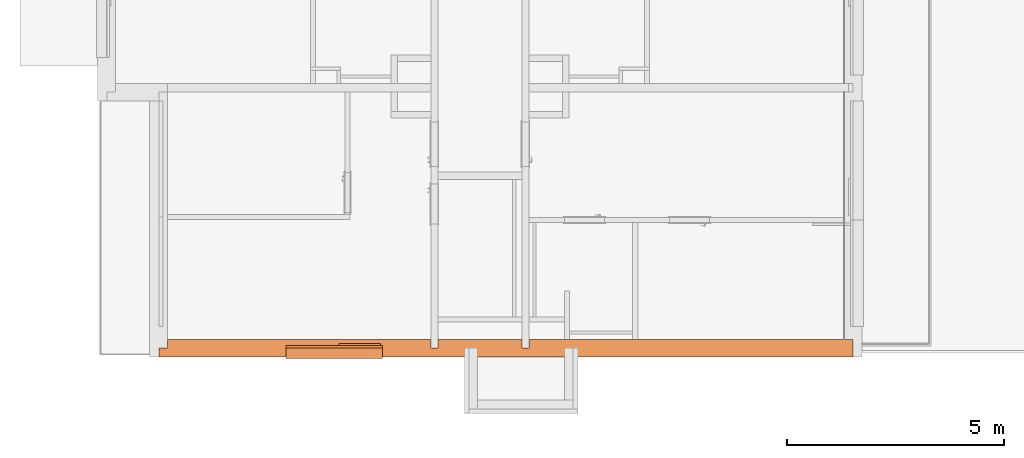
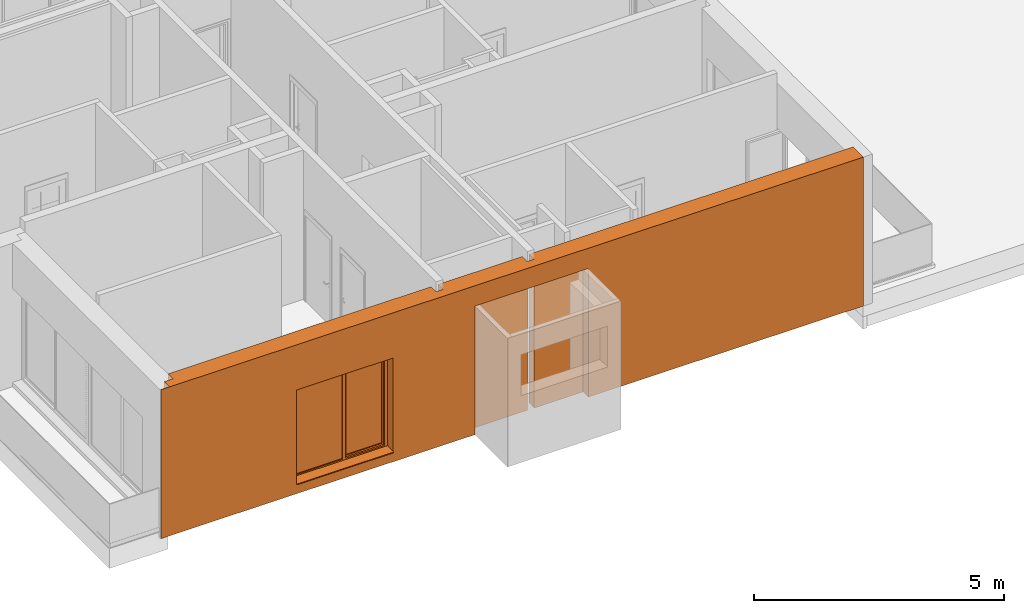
# One storey, part 24 of 46: 2 proxies, 1 opening.
"""IFC2X3 building model written with IfcOpenShell, lengths in millimetres."""

import ifcopenshell
import ifcopenshell.guid

model = None  # the IFC model being written
_history = None  # IfcOwnerHistory: only IFC2X3 demands one
_inside = {}  # id of a spatial element -> (the spatial element, [elements in it])
_under = {}  # id of a project, library or spatial element -> (it, [spatial elements below it])
_declared = {}  # id of a project -> (the project, [libraries it declares])
_typed = {}  # id of a type object -> (the type object, [elements of that type])
_made_of = {}  # id of a material, layer set ... -> (it, [elements and type objects made of it])


def new_model(schema):
    """Start an empty IFC model of exactly this schema.

    Asked for "IFC4X3", IfcOpenShell would pick the latest addendum, in which some entities
    have other attributes; the version numbers below select the first issue.
    IFC2X3 requires an IfcOwnerHistory on every rooted entity: one is made here for all.
    """
    global model, _history
    if schema == "IFC4X3":
        model = ifcopenshell.file(schema_version=(4, 3, 0, 0))
    else:
        model = ifcopenshell.file(schema=schema)
    _inside.clear()
    _under.clear()
    _declared.clear()
    _typed.clear()
    _made_of.clear()
    _history = None
    if model.schema == "IFC2X3":
        org = make("IfcOrganization", Name="unknown")
        user = make(
            "IfcPersonAndOrganization",
            ThePerson=make("IfcPerson", FamilyName="unknown"),
            TheOrganization=org,
        )
        app = make(
            "IfcApplication",
            ApplicationDeveloper=org,
            Version="unknown",
            ApplicationFullName="unknown",
            ApplicationIdentifier="unknown",
        )
        _history = make(
            "IfcOwnerHistory",
            OwningUser=user,
            OwningApplication=app,
            ChangeAction="ADDED",
            CreationDate=0,
        )
    return model


def make(cls, **values):
    """One entity of the class cls with the attributes given. An attribute that is None is left unset."""
    return model.create_entity(
        cls, **{name: value for name, value in values.items() if value is not None}
    )


def entity(cls, *values):
    """Any entity or typed value of the class cls, its attributes in the order of the schema. None: left unset."""
    e = model.create_entity(cls)
    for i, value in enumerate(values):
        if value is not None:
            e[i] = value
    return e


def rooted(cls, **values):
    """An entity with a GlobalId (a new one), such as an element, a storey or a relation."""
    return make(cls, GlobalId=ifcopenshell.guid.new(), OwnerHistory=_history, **values)


def si_unit(unit_type, name, prefix=None):
    """IfcSIUnit, for example si_unit("LENGTHUNIT", "METRE", prefix="MILLI")."""
    return make("IfcSIUnit", UnitType=unit_type, Prefix=prefix, Name=name)


def converted_unit(unit_type, name, factor, base, dimensions=None, offset=None):
    """IfcConversionBasedUnit, such as the inch: factor (a typed value) times the base unit."""
    return make(
        "IfcConversionBasedUnit"
        if offset is None
        else "IfcConversionBasedUnitWithOffset",
        ConversionOffset=offset,
        Dimensions=None
        if dimensions is None
        else entity("IfcDimensionalExponents", *dimensions),
        UnitType=unit_type,
        Name=name,
        ConversionFactor=make(
            "IfcMeasureWithUnit", ValueComponent=factor, UnitComponent=base
        ),
    )


def derived_unit(unit_type, elements):
    """IfcDerivedUnit: a product of units, each with its exponent."""
    return make(
        "IfcDerivedUnit",
        Elements=[
            make("IfcDerivedUnitElement", Unit=unit, Exponent=power)
            for unit, power in elements
        ],
        UnitType=unit_type,
    )


def money_unit(currency):
    """IfcMonetaryUnit."""
    return make("IfcMonetaryUnit", Currency=currency)


def assignment(units):
    """IfcUnitAssignment: the units of a project."""
    return None if units is None else make("IfcUnitAssignment", Units=units)


def point(xyz):
    """IfcCartesianPoint."""
    return None if xyz is None else make("IfcCartesianPoint", Coordinates=xyz)


def direction(xyz):
    """IfcDirection."""
    return None if xyz is None else make("IfcDirection", DirectionRatios=xyz)


def frame(location, z_axis=None, x_axis=None):
    """IfcAxis2Placement3D, a coordinate frame: its origin and axes. An axis left out is left unset."""
    return make(
        "IfcAxis2Placement3D",
        Location=point(location),
        Axis=direction(z_axis),
        RefDirection=direction(x_axis),
    )


def frame_2d(location, x_axis=None):
    """IfcAxis2Placement2D, a coordinate frame in the plane: its origin and x axis."""
    return make(
        "IfcAxis2Placement2D", Location=point(location), RefDirection=direction(x_axis)
    )


def origin_with_axes():
    """The frame at (0, 0, 0) with the z axis (0, 0, 1) and the x axis (1, 0, 0) written out."""
    return frame((0.0, 0.0, 0.0), z_axis=(0.0, 0.0, 1.0), x_axis=(1.0, 0.0, 0.0))


def origin_2d_with_axis():
    """The frame at (0, 0) in the plane with the x axis (1, 0) written out."""
    return frame_2d((0.0, 0.0), x_axis=(1.0, 0.0))


def place(relative_to, where):
    """IfcLocalPlacement: puts the frame where relative to a parent placement (None: the world)."""
    return make(
        "IfcLocalPlacement", PlacementRelTo=relative_to, RelativePlacement=where
    )


def context(
    kind, dimensions, precision=None, world=None, true_north=None, identifier=None
):
    """IfcGeometricRepresentationContext, for example the 3D "Model" context."""
    return make(
        "IfcGeometricRepresentationContext",
        ContextIdentifier=identifier,
        ContextType=kind,
        CoordinateSpaceDimension=dimensions,
        Precision=precision,
        WorldCoordinateSystem=world,
        TrueNorth=true_north,
    )


def subcontext(parent, identifier, kind, view, scale=None):
    """IfcGeometricRepresentationSubContext, for example "Body" below "Model"."""
    return make(
        "IfcGeometricRepresentationSubContext",
        ContextIdentifier=identifier,
        ContextType=kind,
        ParentContext=parent,
        TargetScale=scale,
        TargetView=view,
    )


def project(units=None, contexts=None):
    """IfcProject with its units and contexts."""
    return rooted(
        "IfcProject",
        Name="project",
        RepresentationContexts=contexts,
        UnitsInContext=assignment(units),
    )


def spatial(cls, under=None, at=None, **own):
    """A site, building, storey or space (cls), placed at a placement, below another one or the project."""
    s = rooted(cls, ObjectPlacement=at, **own)
    if under is not None:
        _under.setdefault(under.id(), (under, []))[1].append(s)
    return s


def profile(cls, at=None, kind="AREA", **sizes):
    """A parametric profile (cls). Its sizes go by their IFC names, for example OverallWidth=200.0."""
    return make(cls, ProfileType=kind, Position=at, **sizes)


def rectangle(**sizes):
    """IfcRectangleProfileDef."""
    return profile("IfcRectangleProfileDef", **sizes)


def extrude(swept, where, along, depth):
    """IfcExtrudedAreaSolid: the profile swept, set in the frame where, extruded along a direction by depth."""
    return make(
        "IfcExtrudedAreaSolid",
        SweptArea=swept,
        Position=where,
        ExtrudedDirection=direction(along),
        Depth=depth,
    )


def faces_of(points, faces, orient=None, outer=None):
    """IfcFace entities. A face is a list of loops; a loop is a list of indices into points, from 0.

    orient and outer hold one flag for each loop. By default every Orientation is true, the
    first loop of a face is its IfcFaceOuterBound and the others are IfcFaceBound.
    """
    made = []
    for i, loops in enumerate(faces):
        bounds = []
        for j, loop in enumerate(loops):
            is_outer = j == 0 if outer is None else outer[i][j]
            bounds.append(
                make(
                    "IfcFaceOuterBound" if is_outer else "IfcFaceBound",
                    Bound=make("IfcPolyLoop", Polygon=[points[k] for k in loop]),
                    Orientation=True if orient is None else orient[i][j],
                )
            )
        made.append(make("IfcFace", Bounds=bounds))
    return made


def open_shell(faces, orient=None, outer=None):
    """The faces of one IfcOpenShell. surface_model builds it on its shared points."""
    return ("IfcOpenShell", faces, orient, outer)


def faceted_brep(points, faces, orient=None, outer=None, voids=None):
    """IfcFacetedBrep: a solid bounded by flat faces; with voids (closed shells), ...WithVoids."""
    shared = [point(p) for p in points]
    hull = make("IfcClosedShell", CfsFaces=faces_of(shared, faces, orient, outer))
    if voids is None:
        return make("IfcFacetedBrep", Outer=hull)
    return make(
        "IfcFacetedBrepWithVoids",
        Outer=hull,
        Voids=[
            make(cls, CfsFaces=faces_of(shared, fs, o, b)) for cls, fs, o, b in voids
        ],
    )


def surface_model(cls, points, shells):
    """IfcFaceBasedSurfaceModel or IfcShellBasedSurfaceModel (cls): surfaces that need not close."""
    shared = [point(p) for p in points]
    made = [make(c, CfsFaces=faces_of(shared, fs, o, b)) for c, fs, o, b in shells]
    if cls == "IfcFaceBasedSurfaceModel":
        return make(cls, FbsmFaces=made)
    return make(cls, SbsmBoundary=made)


def shape(context_of_items, identifier, shape_type, items):
    """IfcShapeRepresentation: the items that make up one representation, for example the "Body"."""
    return make(
        "IfcShapeRepresentation",
        ContextOfItems=context_of_items,
        RepresentationIdentifier=identifier,
        RepresentationType=shape_type,
        Items=items,
    )


def source(mapping_origin, context_of_items, identifier, shape_type, items):
    """IfcRepresentationMap: a shape defined once, which mapped items show again and again."""
    return make(
        "IfcRepresentationMap",
        MappingOrigin=mapping_origin,
        MappedRepresentation=shape(context_of_items, identifier, shape_type, items),
    )


def transform(
    local_origin,
    x_axis=None,
    y_axis=None,
    z_axis=None,
    scale=None,
    scale2=None,
    scale3=None,
    uniform=True,
):
    """IfcCartesianTransformationOperator3D, or its non-uniform kind. x_axis, y_axis, z_axis: its Axis1, 2, 3."""
    if uniform:
        return make(
            "IfcCartesianTransformationOperator3D",
            Axis1=direction(x_axis),
            Axis2=direction(y_axis),
            LocalOrigin=point(local_origin),
            Scale=scale,
            Axis3=direction(z_axis),
        )
    return make(
        "IfcCartesianTransformationOperator3DnonUniform",
        Axis1=direction(x_axis),
        Axis2=direction(y_axis),
        LocalOrigin=point(local_origin),
        Scale=scale,
        Axis3=direction(z_axis),
        Scale2=scale2,
        Scale3=scale3,
    )


def mapped(mapping_source, mapping_target):
    """IfcMappedItem: shows the shape of a source again, moved by a transform."""
    return make(
        "IfcMappedItem", MappingSource=mapping_source, MappingTarget=mapping_target
    )


def material(Name=None, Category=None):
    """IfcMaterial."""
    return make("IfcMaterial", Name=Name, Category=Category)


def material_list(materials):
    """IfcMaterialList."""
    return make("IfcMaterialList", Materials=materials)


def made_of(thing, what):
    """Note that an element or type object is made of a material, layer set ...; save() writes the relation."""
    if what is not None:
        _made_of.setdefault(what.id(), (what, []))[1].append(thing)
    return thing


def type_object(cls, material=None, **own):
    """A type object (cls), such as IfcWallType, which elements share."""
    return made_of(rooted(cls, **own), material)


def element(
    cls,
    number,
    at=None,
    inside=None,
    cuts=None,
    type_object=None,
    material=None,
    context=None,
    identifier="Body",
    shape_type=None,
    held_by="IfcProductDefinitionShape",
    body=None,
    shapes=None,
    **own,
):
    """One element of the class cls, such as IfcWall. Its Tag is "e" and its number.

    at: its placement. inside: the storey or other place that contains it. cuts: it is an
    opening in that element (IfcRelVoidsElement). A single representation is given by context,
    identifier, shape_type and body (its items); several are given by shapes. held_by: the class
    of the entity that holds the representations. save() writes the other relations.
    """
    e = rooted(cls, Tag="e%d" % number, ObjectPlacement=at, **own)
    if body is not None:
        shapes = [shape(context, identifier, shape_type, body)]
    if shapes is not None:
        e.Representation = make(held_by, Representations=shapes)
    if inside is not None:
        _inside.setdefault(inside.id(), (inside, []))[1].append(e)
    if cuts is not None:
        rooted(
            "IfcRelVoidsElement", RelatingBuildingElement=cuts, RelatedOpeningElement=e
        )
    if type_object is not None:
        _typed.setdefault(type_object.id(), (type_object, []))[1].append(e)
    return made_of(e, material)


def fill(opening, filler):
    """IfcRelFillsElement: the door or window that sits in an opening."""
    return rooted(
        "IfcRelFillsElement",
        RelatingOpeningElement=opening,
        RelatedBuildingElement=filler,
    )


def aggregate(whole, parts):
    """IfcRelAggregates: a whole, such as a stair, and the parts it consists of."""
    return rooted("IfcRelAggregates", RelatingObject=whole, RelatedObjects=parts)


def save(model, path):
    """Write the relations noted so far, then the file.

    IfcRelAggregates (storeys below a building ...), IfcRelContainedInSpatialStructure (elements
    in a storey), IfcRelDefinesByType, IfcRelAssociatesMaterial and IfcRelDeclares: one each for
    every whole, place, type object, material and project.
    """
    for whole, parts in _under.values():
        aggregate(whole, parts)
    for where, things in _inside.values():
        rooted(
            "IfcRelContainedInSpatialStructure",
            RelatedElements=things,
            RelatingStructure=where,
        )
    for kind, things in _typed.values():
        rooted("IfcRelDefinesByType", RelatedObjects=things, RelatingType=kind)
    for what, things in _made_of.values():
        rooted("IfcRelAssociatesMaterial", RelatedObjects=things, RelatingMaterial=what)
    for by, libraries in _declared.values():
        rooted("IfcRelDeclares", RelatingContext=by, RelatedDefinitions=libraries)
    model.write(path)


model = new_model("IFC2X3")

# Units and contexts
model_context = context("Model", 3, precision=0.01, world=origin_with_axes(), true_north=direction((0.34421633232, 0.938890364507)))
body_context = subcontext(model_context, "Body", "Model", "MODEL_VIEW")
ifc_project = project(units=[si_unit("LENGTHUNIT", "METRE", prefix="MILLI"), si_unit("AREAUNIT", "SQUARE_METRE"), si_unit("VOLUMEUNIT", "CUBIC_METRE"), converted_unit("PLANEANGLEUNIT", "DEGREE", entity("IfcPlaneAngleMeasure", 0.0174532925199), si_unit("PLANEANGLEUNIT", "RADIAN"), dimensions=[0, 0, 0, 0, 0, 0, 0]), si_unit("SOLIDANGLEUNIT", "STERADIAN"), money_unit("USD"), converted_unit("TIMEUNIT", "Year", entity("IfcTimeMeasure", 31556926.0), si_unit("TIMEUNIT", "SECOND"), dimensions=[0, 0, 1, 0, 0, 0, 0]), si_unit("MASSUNIT", "GRAM", prefix="KILO"), si_unit("THERMODYNAMICTEMPERATUREUNIT", "DEGREE_CELSIUS"), si_unit("LUMINOUSINTENSITYUNIT", "LUMEN"), si_unit("ENERGYUNIT", "JOULE", prefix="MEGA"), derived_unit("THERMALCONDUCTANCEUNIT", [(si_unit("POWERUNIT", "WATT"), 1), (si_unit("LENGTHUNIT", "METRE"), -1), (si_unit("THERMODYNAMICTEMPERATUREUNIT", "KELVIN"), -1)]), derived_unit("SPECIFICHEATCAPACITYUNIT", [(si_unit("ENERGYUNIT", "JOULE"), 1), (si_unit("MASSUNIT", "GRAM", prefix="KILO"), -1), (si_unit("THERMODYNAMICTEMPERATUREUNIT", "KELVIN"), -1)]), derived_unit("MASSDENSITYUNIT", [(si_unit("MASSUNIT", "GRAM", prefix="KILO"), 1), (si_unit("VOLUMEUNIT", "CUBIC_METRE"), -1)])], contexts=[model_context])

# Site, building, storey
site_placement = place(None, origin_with_axes())
site = spatial("IfcSite", under=ifc_project, at=site_placement, Name="USTRONIE MORSKIE", CompositionType="ELEMENT")
building_placement = place(site_placement, origin_with_axes())
building = spatial("IfcBuilding", under=site, at=building_placement, Name="Budynek", CompositionType="ELEMENT")
storey_placement = place(building_placement, origin_with_axes())
storey = spatial("IfcBuildingStorey", under=building, at=storey_placement, Name="PARTER", CompositionType="ELEMENT", Elevation=0.0)

# Proxies, opening
ifc_material_1 = material(Name="Tynk zewnętrzny")
ifc_material_2 = material(Name="Wełna ELEW")
ifc_material_3 = material(Name="Beton konstrukcyjny B25")
ifc_material_list = material_list([ifc_material_1, ifc_material_2, ifc_material_3])
building_element_proxy_type_1 = type_object("IfcBuildingElementProxyType", Name="20+20 410", PredefinedType="NOTDEFINED")
proxy_1_placement = place(storey_placement, frame((367067.920919, 709201.199036, -230.0), z_axis=(0.0, 0.0, 1.0), x_axis=(-1.0, 0.0, 0.0)))
proxy_1 = element("IfcBuildingElementProxy", 1, at=proxy_1_placement, inside=storey, type_object=building_element_proxy_type_1, material=ifc_material_list, Name="SZ-01", context=body_context, shape_type="Brep", body=[
    faceted_brep([(6250.0, 300.0, 3135.0), (8850.0, 300.0, 3135.0), (8850.0, 300.0, 3130.0), (8860.0, 300.0, 3130.0), (8860.0, 300.0, 0.0), (16100.0, 300.0, 0.0), (16100.0, 300.0, 3630.0), (-100.0, 300.0, 3630.0), (-100.0, 300.0, 0.0), (6240.0, 300.0, 0.0), (6240.0, 300.0, 3130.0), (6250.0, 300.0, 3130.0), (8850.0, 310.0, 3135.0), (6250.0, 310.0, 3135.0), (8850.0, 310.0, 3130.0), (8860.0, 310.0, 3130.0), (8860.0, 310.0, 0.0), (16100.0, 310.0, 0.0), (16100.0, 310.0, 3630.0), (-100.0, 310.0, 3630.0), (-100.0, 310.0, 0.0), (6240.0, 310.0, 0.0), (6240.0, 310.0, 3130.0), (6250.0, 310.0, 3130.0)], [[[0, 1, 2, 3, 4, 5, 6, 7, 8, 9, 10, 11]], [[12, 1, 0, 13]], [[14, 2, 1, 12]], [[3, 2, 14, 15]], [[15, 16, 4, 3]], [[17, 5, 4, 16]], [[5, 17, 18, 6]], [[19, 7, 6, 18]], [[19, 20, 8, 7]], [[8, 20, 21, 9]], [[21, 22, 10, 9]], [[22, 23, 11, 10]], [[13, 0, 11, 23]], [[12, 13, 23, 22, 21, 20, 19, 18, 17, 16, 15, 14]]]),
    faceted_brep([(6250.0, 100.0, 3135.0), (8850.0, 100.0, 3135.0), (8850.0, 100.0, 3130.0), (8860.0, 100.0, 3130.0), (8860.0, 100.0, 0.0), (15900.0, 100.0, 0.0), (15900.0, 100.0, 3630.0), (-100.0, 100.0, 3630.0), (-100.0, 100.0, 0.0), (6240.0, 100.0, 0.0), (6240.0, 100.0, 3130.0), (6250.0, 100.0, 3130.0), (8850.0, 300.0, 3135.0), (6250.0, 300.0, 3135.0), (8850.0, 300.0, 3130.0), (8860.0, 300.0, 3130.0), (8860.0, 300.0, 0.0), (15900.0, 300.0, 0.0), (15900.0, 300.0, 3630.0), (-100.0, 300.0, 3630.0), (-100.0, 300.0, 0.0), (6240.0, 300.0, 0.0), (6240.0, 300.0, 3130.0), (6250.0, 300.0, 3130.0)], [[[0, 1, 2, 3, 4, 5, 6, 7, 8, 9, 10, 11]], [[12, 1, 0, 13]], [[14, 2, 1, 12]], [[3, 2, 14, 15]], [[15, 16, 4, 3]], [[17, 5, 4, 16]], [[5, 17, 18, 6]], [[19, 7, 6, 18]], [[19, 20, 8, 7]], [[8, 20, 21, 9]], [[21, 22, 10, 9]], [[22, 23, 11, 10]], [[13, 0, 11, 23]], [[12, 13, 23, 22, 21, 20, 19, 18, 17, 16, 15, 14]]]),
    faceted_brep([(-100.0, -100.0, 3630.0), (7369.99735394, -100.0, 3630.0), (7369.99735394, 100.0, 3630.0), (-100.0, 100.0, 3630.0), (-100.0, -100.0, 0.0), (7369.99735394, -100.0, 0.0), (7369.99735394, 100.0, 0.0), (-100.0, 100.0, 0.0)], [[[0, 1, 2, 3]], [[4, 5, 1, 0]], [[6, 2, 1, 5]], [[3, 2, 6, 7]], [[7, 4, 0, 3]], [[7, 6, 5, 4]]]),
    faceted_brep([(7529.99735394, -100.0, 3630.0), (9470.0, -100.0, 3630.0), (9470.0, 100.0, 3630.0), (7529.99735394, 100.0, 3630.0), (7529.99735394, -100.0, 0.0), (9470.0, -100.0, 0.0), (9470.0, 100.0, 0.0), (7529.99735394, 100.0, 0.0)], [[[0, 1, 2, 3]], [[4, 5, 1, 0]], [[6, 2, 1, 5]], [[3, 2, 6, 7]], [[7, 4, 0, 3]], [[7, 6, 5, 4]]]),
    faceted_brep([(15700.0, 100.0, 3630.0), (9630.0, 100.0, 3630.0), (9630.0, -100.0, 3630.0), (15700.0, -100.0, 3630.0), (15700.0, 100.0, 0.0), (9630.0, 100.0, 0.0), (9630.0, -100.0, 0.0), (15700.0, -100.0, 0.0)], [[[0, 1, 2, 3]], [[4, 5, 1, 0]], [[2, 1, 5, 6]], [[3, 2, 6, 7]], [[3, 7, 4, 0]], [[7, 6, 5, 4]]]),
])
opening_placement = place(proxy_1_placement, frame((11860.0033173, 0.0, 230.0), z_axis=(0.0, 0.0, 1.0), x_axis=(1.0, 0.0, 0.0)))
opening = element("IfcOpeningElement", 2, at=opening_placement, cuts=proxy_1, Name="Wz.01", context=body_context, shape_type="SweptSolid", body=[
    extrude(rectangle(XDim=2220.00663467, YDim=2300.0, at=origin_2d_with_axis()), frame((0.0, 99.9999999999, 1150.0), z_axis=(0.0, -1.0, 0.0), x_axis=(-1.0, 0.0, 0.0)), (0.0, 0.0, -1.0), 620.0),
    extrude(rectangle(XDim=2220.00663467, YDim=2300.0, at=origin_2d_with_axis()), frame((0.0, 100.0, 1150.0), z_axis=(0.0, 1.0, 0.0), x_axis=(-1.0, 0.0, 0.0)), (0.0, 0.0, -1.0), 610.0),
])
building_element_proxy_type_2 = type_object("IfcBuildingElementProxyType", Name="Okno podwójne 23", PredefinedType="NOTDEFINED")
shared_shape = source(origin_with_axes(), body_context, "Body", "SurfaceModel", [
    surface_model("IfcShellBasedSurfaceModel", [(-1110.00331734, -66.0, 50.0), (-1110.00331734, -66.0, 40.0), (1110.00331734, -66.0, 40.0), (1110.00331734, -66.0, 50.0), (-1110.00331734, -305.0, 28.5714285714), (1110.00331734, -305.0, 28.5714285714), (-1110.00331734, -305.0, 8.57142857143), (1110.00331734, -305.0, 8.57142857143), (-1110.00331734, -295.0, 18.5714285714), (1110.00331734, -295.0, 18.5714285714)], [open_shell([[[0, 1, 2, 3]], [[1, 4, 5, 2]], [[4, 6, 7, 5]], [[6, 8, 9, 7]]])]),
    faceted_brep([(1040.00331734, -25.0, 2230.0), (1040.00331734, -65.0, 2230.0), (1110.00331734, -65.0, 2230.0), (1110.00331734, 0.0, 2230.0), (1065.00331734, 0.0, 2230.0), (1065.00331734, -25.0, 2230.0), (1040.00331734, -25.0, 70.0), (1040.00331734, -65.0, 70.0), (1110.00331734, -65.0, 70.0), (1110.00331734, 0.0, 70.0), (1065.00331734, 0.0, 70.0), (1065.00331734, -25.0, 70.0)], [[[0, 1, 2, 3, 4, 5]], [[6, 7, 1, 0]], [[8, 2, 1, 7]], [[9, 3, 2, 8]], [[4, 3, 9, 10]], [[10, 11, 5, 4]], [[5, 11, 6, 0]], [[11, 10, 9, 8, 7, 6]]]),
    faceted_brep([(112.503317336, 0.0, 2230.0), (72.5033173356, 0.0, 2230.0), (72.5033173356, -65.0, 2230.0), (137.503317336, -65.0, 2230.0), (137.503317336, -25.0, 2230.0), (112.503317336, -25.0, 2230.0), (112.503317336, 0.0, 70.0), (72.5033173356, 0.0, 70.0), (72.5033173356, -65.0, 70.0), (137.503317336, -65.0, 70.0), (137.503317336, -25.0, 70.0), (112.503317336, -25.0, 70.0)], [[[0, 1, 2, 3, 4, 5]], [[6, 7, 1, 0]], [[1, 7, 8, 2]], [[9, 3, 2, 8]], [[4, 3, 9, 10]], [[10, 11, 5, 4]], [[5, 11, 6, 0]], [[11, 10, 9, 8, 7, 6]]]),
    faceted_brep([(1040.00331734, -25.0, 70.0), (1040.00331734, -65.0, 70.0), (1110.00331734, -65.0, 70.0), (1110.00331734, 0.0, 70.0), (1065.00331734, 0.0, 70.0), (1065.00331734, -25.0, 70.0), (137.503317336, -25.0, 70.0), (137.503317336, -65.0, 70.0), (-1110.00331734, -65.0, 70.0), (-1110.00331734, -65.0, 0.0), (1110.00331734, -65.0, 0.0), (72.5033173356, -65.0, 70.0), (-1040.00331734, -65.0, 70.0), (1110.00331734, 0.0, 0.0), (112.503317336, 0.0, 45.0), (1065.00331734, 0.0, 45.0), (-1110.00331734, 0.0, 0.0), (-1110.00331734, 0.0, 70.0), (-1040.00331734, 0.0, 70.0), (72.5033173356, 0.0, 70.0), (112.503317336, 0.0, 70.0), (1065.00331734, -25.0, 45.0), (112.503317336, -25.0, 45.0), (112.503317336, -25.0, 70.0)], [[[0, 1, 2, 3, 4, 5]], [[6, 7, 1, 0]], [[8, 9, 10, 2, 1, 7, 11, 12]], [[13, 3, 2, 10]], [[14, 15, 4, 3, 13, 16, 17, 18, 19, 20]], [[15, 21, 5, 4]], [[5, 21, 22, 23, 6, 0]], [[23, 20, 19, 11, 7, 6]], [[17, 16, 9, 8]], [[16, 13, 10, 9]], [[19, 18, 12, 11]], [[18, 17, 8, 12]], [[14, 22, 21, 15]], [[23, 22, 14, 20]]]),
    faceted_brep([(112.503317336, 0.0, 2230.0), (72.5033173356, 0.0, 2230.0), (-1040.00331734, 0.0, 2230.0), (-1110.00331734, 0.0, 2230.0), (-1110.00331734, 0.0, 2300.0), (1110.00331734, 0.0, 2300.0), (1110.00331734, 0.0, 2230.0), (1065.00331734, 0.0, 2230.0), (1065.00331734, 0.0, 2255.0), (112.503317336, 0.0, 2255.0), (112.503317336, -25.0, 2230.0), (137.503317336, -25.0, 2230.0), (137.503317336, -65.0, 2230.0), (72.5033173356, -65.0, 2230.0), (-1040.00331734, -65.0, 2230.0), (-1110.00331734, -65.0, 2230.0), (-1110.00331734, -65.0, 2300.0), (1110.00331734, -65.0, 2300.0), (1110.00331734, -65.0, 2230.0), (1065.00331734, -25.0, 2230.0), (1040.00331734, -65.0, 2230.0), (1040.00331734, -25.0, 2230.0), (1065.00331734, -25.0, 2255.0), (112.503317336, -25.0, 2255.0)], [[[0, 1, 2, 3, 4, 5, 6, 7, 8, 9]], [[10, 11, 12, 13, 1, 0]], [[2, 1, 13, 14]], [[3, 2, 14, 15]], [[4, 3, 15, 16]], [[5, 4, 16, 17]], [[6, 5, 17, 18]], [[19, 7, 6, 18, 20, 21]], [[7, 19, 22, 8]], [[8, 22, 23, 9]], [[9, 23, 10, 0]], [[21, 11, 10, 23, 22, 19]], [[21, 20, 12, 11]], [[12, 20, 18, 17, 16, 15, 14, 13]]]),
    faceted_brep([(-1040.00331734, -65.0, 2230.0), (-1040.00331734, 0.0, 2230.0), (-1110.00331734, 0.0, 2230.0), (-1110.00331734, -65.0, 2230.0), (-1040.00331734, -65.0, 70.0), (-1040.00331734, 0.0, 70.0), (-1110.00331734, 0.0, 70.0), (-1110.00331734, -65.0, 70.0)], [[[0, 1, 2, 3]], [[4, 5, 1, 0]], [[1, 5, 6, 2]], [[3, 2, 6, 7]], [[0, 3, 7, 4]], [[7, 6, 5, 4]]]),
    surface_model("IfcShellBasedSurfaceModel", [(-1040.00331734, -35.0, 70.0), (72.5033173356, -35.0, 70.0), (72.5033173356, -35.0, 2230.0), (-1040.00331734, -35.0, 2230.0)], [open_shell([[[0, 1, 2, 3]]])]),
    surface_model("IfcShellBasedSurfaceModel", [(-1040.00331734, -15.0, 70.0), (-1040.00331734, -15.0, 2230.0), (72.5033173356, -15.0, 2230.0), (72.5033173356, -15.0, 70.0)], [open_shell([[[0, 1, 2, 3]]])]),
    faceted_brep([(177.503317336, -25.0, 2190.0), (177.503317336, 40.0, 2190.0), (112.503317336, 40.0, 2190.0), (112.503317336, -25.0, 2190.0), (177.503317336, -25.0, 110.0), (177.503317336, 40.0, 110.0), (112.503317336, 40.0, 110.0), (112.503317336, -25.0, 110.0)], [[[0, 1, 2, 3]], [[4, 5, 1, 0]], [[1, 5, 6, 2]], [[3, 2, 6, 7]], [[0, 3, 7, 4]], [[7, 6, 5, 4]]]),
    faceted_brep([(1000.00331734, -25.0, 110.0), (1000.00331734, 40.0, 110.0), (1065.00331734, 40.0, 110.0), (1065.00331734, -25.0, 110.0), (1000.00331734, -25.0, 2190.0), (1000.00331734, 40.0, 2190.0), (1065.00331734, 40.0, 2190.0), (1065.00331734, -25.0, 2190.0)], [[[0, 1, 2, 3]], [[4, 5, 1, 0]], [[1, 5, 6, 2]], [[3, 2, 6, 7]], [[0, 3, 7, 4]], [[7, 6, 5, 4]]]),
    faceted_brep([(1065.00331734, -25.0, 45.0), (1065.00331734, 40.0, 45.0), (1065.00331734, 40.0, 110.0), (1065.00331734, -25.0, 110.0), (112.503317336, -25.0, 45.0), (112.503317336, 40.0, 45.0), (112.503317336, 40.0, 110.0), (177.503317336, 40.0, 110.0), (1000.00331734, 40.0, 110.0), (1000.00331734, -25.0, 110.0), (177.503317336, -25.0, 110.0), (112.503317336, -25.0, 110.0)], [[[0, 1, 2, 3]], [[4, 5, 1, 0]], [[1, 5, 6, 7, 8, 2]], [[3, 2, 8, 9]], [[0, 3, 9, 10, 11, 4]], [[11, 6, 5, 4]], [[10, 7, 6, 11]], [[9, 8, 7, 10]]]),
    faceted_brep([(112.503317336, -25.0, 2255.0), (112.503317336, 40.0, 2255.0), (112.503317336, 40.0, 2190.0), (112.503317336, -25.0, 2190.0), (1065.00331734, -25.0, 2255.0), (1065.00331734, 40.0, 2255.0), (1065.00331734, 40.0, 2190.0), (1000.00331734, 40.0, 2190.0), (177.503317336, 40.0, 2190.0), (177.503317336, -25.0, 2190.0), (1000.00331734, -25.0, 2190.0), (1065.00331734, -25.0, 2190.0)], [[[0, 1, 2, 3]], [[4, 5, 1, 0]], [[1, 5, 6, 7, 8, 2]], [[3, 2, 8, 9]], [[0, 3, 9, 10, 11, 4]], [[11, 6, 5, 4]], [[10, 7, 6, 11]], [[9, 8, 7, 10]]]),
    surface_model("IfcShellBasedSurfaceModel", [(177.503317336, -2.5, 110.0), (1000.00331734, -2.5, 110.0), (1000.00331734, -2.5, 2190.0), (177.503317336, -2.5, 2190.0)], [open_shell([[[0, 1, 2, 3]]])]),
    surface_model("IfcShellBasedSurfaceModel", [(177.503317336, 17.5, 110.0), (177.503317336, 17.5, 2190.0), (1000.00331734, 17.5, 2190.0), (1000.00331734, 17.5, 110.0)], [open_shell([[[0, 1, 2, 3]]])]),
])
proxy_2_placement = place(opening_placement, frame((1110.00331734, 0.0, 0.0), z_axis=(0.0, 0.0, 1.0), x_axis=(-1.0, 0.0, 0.0)))
proxy_2 = element("IfcBuildingElementProxy", 3, at=proxy_2_placement, inside=storey, type_object=building_element_proxy_type_2, Name="Wz.01", context=body_context, shape_type="MappedRepresentation", body=[
    mapped(shared_shape, transform((1110.00331734, -35.0, 0.0))),
])
fill(opening, proxy_2)

save(model, "model.ifc")
